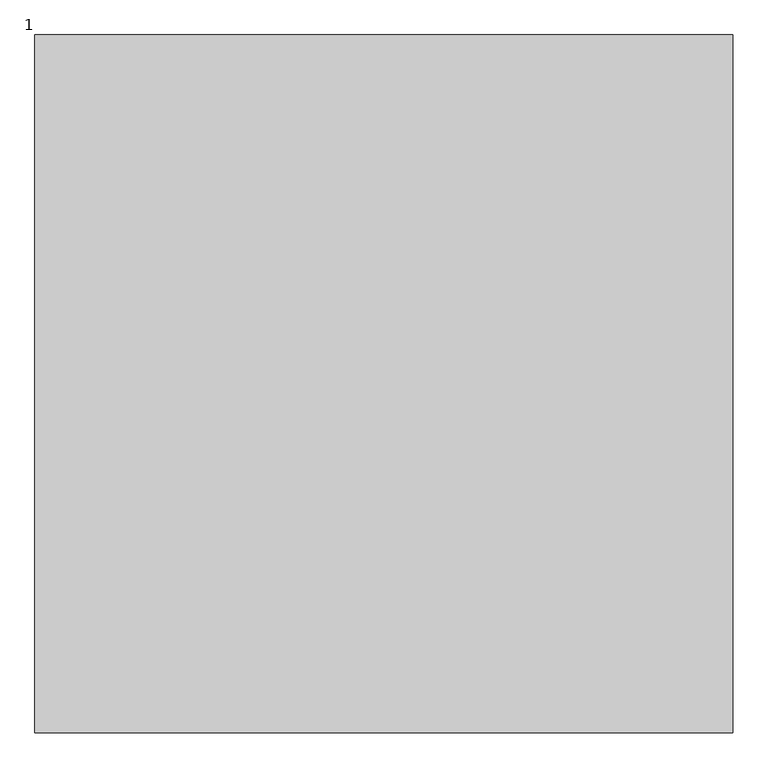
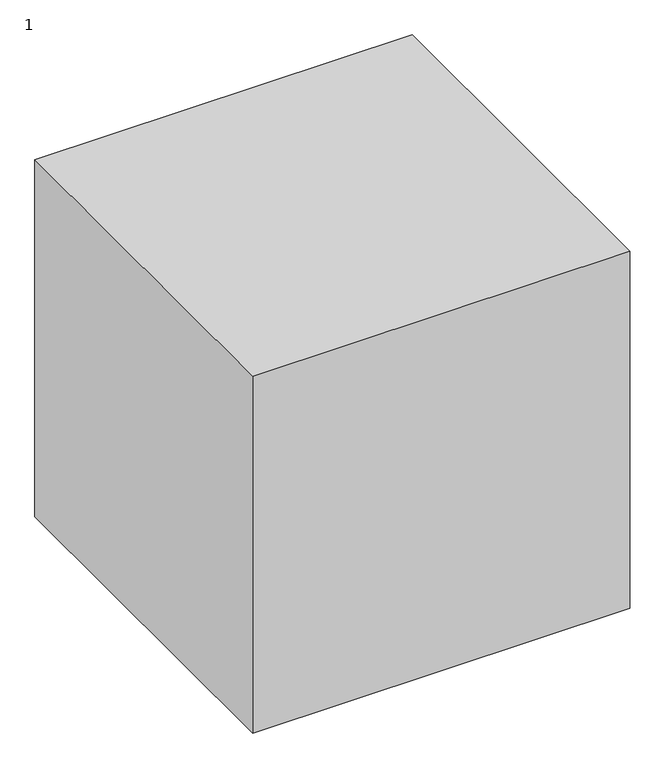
"""IFC4 building model written with IfcOpenShell, lengths in millimetres: proxy geometry, 1222111121 : 1."""

from ifc_helpers import new_model, si_unit, origin, origin_with_axes, place, context, project, spatial, polyline, outline, extrude, source, transform, mapped, element, save


def proxy_1_ce66b29a(model_context):
    return source(origin(), model_context, "Body", "SweptSolid", [
        extrude(outline(polyline([(9692.0243292, 3335.2294472), (9692.0243292, 2335.2294472), (8692.0243292, 2335.2294472), (8692.0243292, 3335.2294472), (9692.0243292, 3335.2294472)])), origin_with_axes(), (0.0, 0.0, 1.0), 1000.0),
    ])


if __name__ == "__main__":
    model = new_model("IFC4")
    model_context = context("Model", 3, world=origin())
    ifc_project = project(units=[si_unit("LENGTHUNIT", "METRE", prefix="MILLI")], contexts=[model_context])
    site = spatial("IfcSite", under=ifc_project)
    building = spatial("IfcBuilding", under=site)
    placement = place(None, origin())
    proxy_1_shape = proxy_1_ce66b29a(model_context)
    element("IfcBuildingElementProxy", 1, Name="1222111121 : 1", ObjectType="1222111121 : 1", at=placement, inside=building, context=model_context, shape_type="MappedRepresentation", body=[
        mapped(proxy_1_shape, transform((0.0, 0.0, 0.0), x_axis=(1.0, 0.0, 0.0), y_axis=(0.0, 1.0, 0.0), z_axis=(0.0, 0.0, 1.0))),
    ])
    save(model, "model.ifc")
